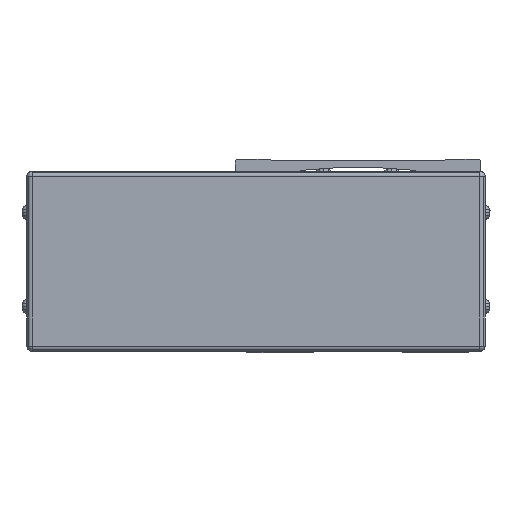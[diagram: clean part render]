
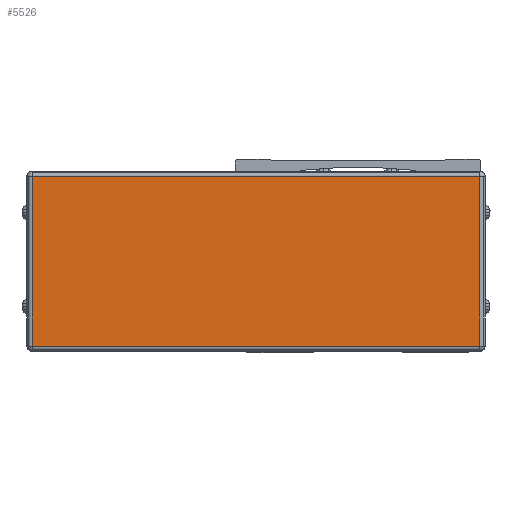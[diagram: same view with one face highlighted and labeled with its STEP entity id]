
A CAD part, front view. The second image highlights one B-rep face of the part: STEP entity #5526.
In plain terms, the highlighted planar face has unit normal (0, -1, 0).
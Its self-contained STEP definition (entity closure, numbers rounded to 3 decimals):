
#5526=ADVANCED_FACE('',(#11984),#11985,.F.);
#11984=FACE_OUTER_BOUND('',#20242,.T.);
#11985=PLANE('',#20243);
#20242=EDGE_LOOP('',(#36609,#36610,#36611,#36612));
#20243=AXIS2_PLACEMENT_3D('',#36613,#36614,#36615);
#36609=ORIENTED_EDGE('',*,*,#52495,.T.);
#36610=ORIENTED_EDGE('',*,*,#46836,.T.);
#36611=ORIENTED_EDGE('',*,*,#49921,.T.);
#36612=ORIENTED_EDGE('',*,*,#46267,.T.);
#36613=CARTESIAN_POINT('',(-39.,-13.778,-42.5));
#36614=DIRECTION('',(0.0,1.0,-0.0));
#36615=DIRECTION('',(-1.0,0.0,0.0));
#46267=EDGE_CURVE('',#54911,#54909,#54912,.T.);
#46836=EDGE_CURVE('',#55927,#55925,#55928,.T.);
#49921=EDGE_CURVE('',#55925,#54911,#61021,.T.);
#52495=EDGE_CURVE('',#54909,#55927,#64747,.T.);
#54909=VERTEX_POINT('',#67658);
#54911=VERTEX_POINT('',#67660);
#54912=LINE('',#67661,#67662);
#55925=VERTEX_POINT('',#69043);
#55927=VERTEX_POINT('',#69045);
#55928=LINE('',#69046,#69047);
#61021=LINE('',#76400,#76401);
#64747=LINE('',#82196,#82197);
#67658=CARTESIAN_POINT('',(-124.7,-13.778,-40.5));
#67660=CARTESIAN_POINT('',(-124.7,-13.778,24.5));
#67661=CARTESIAN_POINT('',(-124.7,-13.778,-42.5));
#67662=VECTOR('',#86249,10.0);
#69043=CARTESIAN_POINT('',(46.7,-13.778,24.5));
#69045=CARTESIAN_POINT('',(46.7,-13.778,-40.5));
#69046=CARTESIAN_POINT('',(46.7,-13.778,-42.5));
#69047=VECTOR('',#87002,10.0);
#76400=CARTESIAN_POINT('',(-39.,-13.778,24.5));
#76401=VECTOR('',#90992,10.0);
#82196=CARTESIAN_POINT('',(-39.,-13.778,-40.5));
#82197=VECTOR('',#93874,10.0);
#86249=DIRECTION('',(-0.0,0.0,-1.0));
#87002=DIRECTION('',(0.0,0.0,1.0));
#90992=DIRECTION('',(-1.0,0.0,0.0));
#93874=DIRECTION('',(1.0,0.0,0.0));
